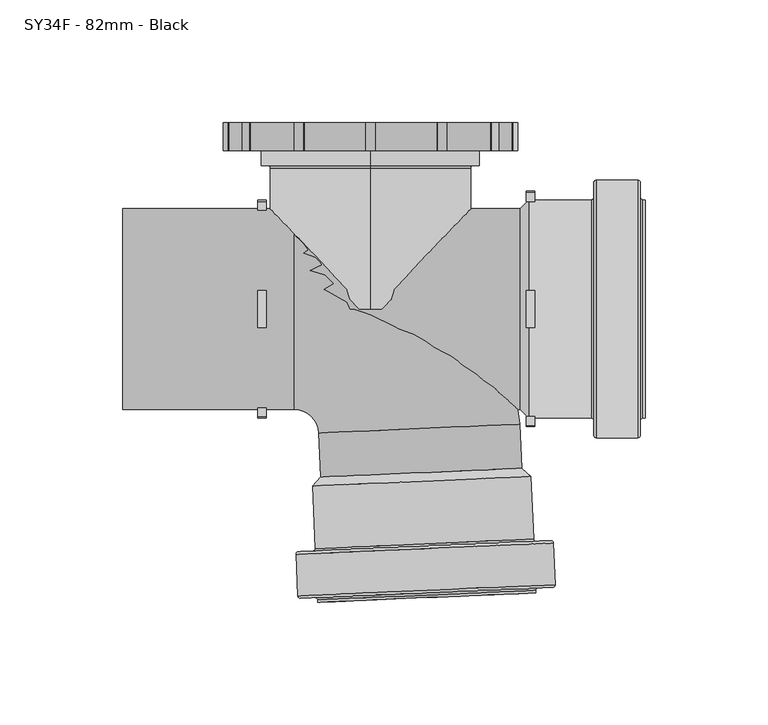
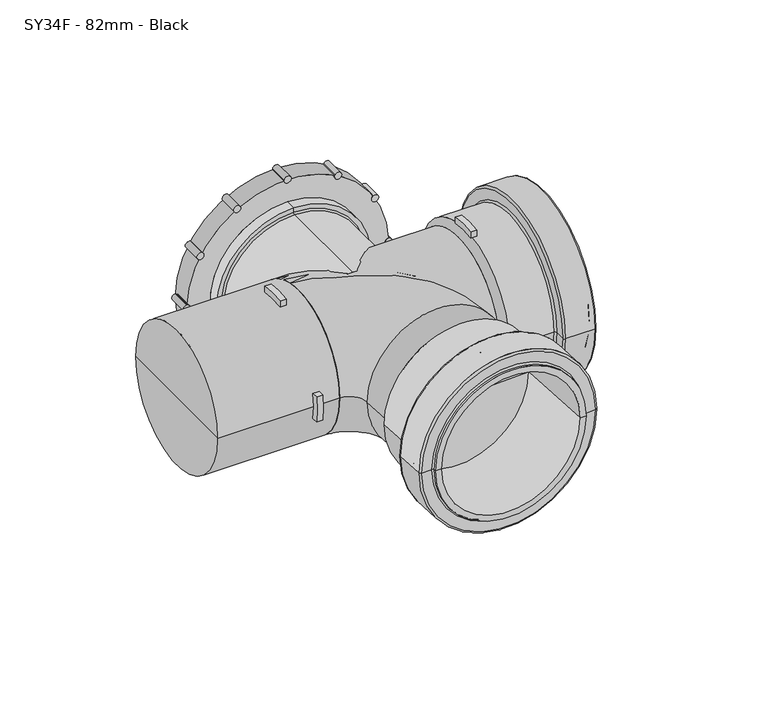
"""IFC4 building model written with IfcOpenShell, lengths in millimetres: pipe fitting geometry, MarleyPlumbingAndDrainage_PipeFitting_AccessBranch87-5_SY34F : SY34F - 82mm - Black."""

from ifc_helpers import new_model, si_unit, point, frame, frame_2d, origin, origin_2d, place, context, project, spatial, polyline, circle_curve, ellipse_curve, trimmed, segment, composite_curve, outline, extrude, source, transform, mapped, element, save
from ifc_brep_helpers import plane_surface, cylinder_surface, revolved_surface, advanced_brep


def sy34f_82mm_black_2398f142(model_context):
    return source(origin(), model_context, "Body", "SolidModel", [
        advanced_brep(
        [(49.596964, -115.7686758, 0.0), (-39.3183277, -119.6508013, 0.0), (-39.3608905, -118.6759527, 0.0), (49.5544012, -114.7938272, 0.0), (46.1002953, -115.9213437, 0.0), (-35.8216589, -119.4981334, 0.0), (44.0283744, -68.4665531, 0.0), (-37.8935798, -72.0433429, 0.0), (3.0673973, -70.254948, 0.0), (47.5250431, -68.3138853, 0.0), (-41.3902486, -72.1960107, 0.0), (-38.0462477, -68.5466741, 0.0), (43.8757065, -64.9698844, 0.0), (48.6387356, -93.8216365, 0.0), (-40.2765561, -97.7037619, 0.0), (49.6479836, -94.7464418, 0.0), (-41.2013615, -98.7130099, 0.0), (55.6367881, -94.484965, 0.0), (-47.190166, -98.9744868, 0.0), (56.7185996, -95.4762627, 0.0), (-48.1814636, -100.0562983, 0.0), (57.4586743, -112.4267603, 0.0), (-47.4413889, -117.006796, 0.0), (56.5072471, -113.4650609, 0.0), (-46.4030883, -117.9582232, 0.0), (50.5329731, -113.7259034, 0.0), (-40.4288143, -117.6973808, 0.0), (2.9147294, -66.7582792, 0.0)],
        [
            (0, 1, circle_curve(frame((5.1393182, -117.7097385, 0.0), z_axis=(-0.04361938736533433, 0.9990482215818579, 0.0), x_axis=(-0.9990482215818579, -0.04361938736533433, 0.0)), 44.5)),
            (1, 2),
            (2, 3, circle_curve(frame((5.0967554, -116.7348899, 0.0), z_axis=(0.04361938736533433, -0.9990482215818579, 0.0), x_axis=(-0.9990482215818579, -0.04361938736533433, 0.0)), 44.5)),
            (3, 0),
            (1, 0, circle_curve(frame((5.1393182, -117.7097385, 0.0), z_axis=(-0.04361938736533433, 0.9990482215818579, 0.0), x_axis=(-0.9990482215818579, -0.04361938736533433, 0.0)), 44.5)),
            (3, 2, circle_curve(frame((5.0967554, -116.7348899, 0.0), z_axis=(0.04361938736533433, -0.9990482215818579, 0.0), x_axis=(-0.9990482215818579, -0.04361938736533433, 0.0)), 44.5)),
            (4, 5, circle_curve(frame((5.1393182, -117.7097385, 0.0), z_axis=(-0.04361938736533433, 0.9990482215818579, 0.0), x_axis=(-0.9990482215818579, -0.04361938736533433, 0.0)), 41.0)),
            (5, 1),
            (0, 4),
            (5, 4, circle_curve(frame((5.1393182, -117.7097385, 0.0), z_axis=(-0.04361938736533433, 0.9990482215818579, 0.0), x_axis=(-0.9990482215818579, -0.04361938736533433, 0.0)), 41.0)),
            (6, 7, circle_curve(frame((3.0673973, -70.254948, 0.0), z_axis=(-0.04361938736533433, 0.9990482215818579, 0.0), x_axis=(-0.9990482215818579, -0.04361938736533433, 0.0)), 41.0)),
            (7, 5),
            (4, 6),
            (7, 6, circle_curve(frame((3.0673973, -70.254948, 0.0), z_axis=(-0.04361938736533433, 0.9990482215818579, 0.0), x_axis=(-0.9990482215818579, -0.04361938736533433, 0.0)), 41.0)),
            (8, 7),
            (6, 8),
            (9, 10, circle_curve(frame((3.0673973, -70.254948, 0.0), z_axis=(-0.04361938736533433, 0.9990482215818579, 0.0), x_axis=(-0.9990482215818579, -0.04361938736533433, 0.0)), 44.5)),
            (10, 11),
            (11, 12, circle_curve(frame((2.9147294, -66.7582792, 0.0), z_axis=(0.04361938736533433, -0.9990482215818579, 0.0), x_axis=(-0.9990482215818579, -0.04361938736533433, 0.0)), 41.0)),
            (12, 9),
            (10, 9, circle_curve(frame((3.0673973, -70.254948, 0.0), z_axis=(-0.04361938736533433, 0.9990482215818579, 0.0), x_axis=(-0.9990482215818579, -0.04361938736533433, 0.0)), 44.5)),
            (12, 11, circle_curve(frame((2.9147294, -66.7582792, 0.0), z_axis=(0.04361938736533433, -0.9990482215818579, 0.0), x_axis=(-0.9990482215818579, -0.04361938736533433, 0.0)), 41.0)),
            (13, 14, circle_curve(frame((4.1810897, -95.7626992, 0.0), z_axis=(-0.04361938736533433, 0.9990482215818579, 0.0), x_axis=(-0.9990482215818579, -0.04361938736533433, 0.0)), 44.5)),
            (14, 10),
            (9, 13),
            (14, 13, circle_curve(frame((4.1810897, -95.7626992, 0.0), z_axis=(-0.04361938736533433, 0.9990482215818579, 0.0), x_axis=(-0.9990482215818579, -0.04361938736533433, 0.0)), 44.5)),
            (15, 16, circle_curve(frame((4.223311, -96.7297259, 0.0), z_axis=(-0.04361938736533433, 0.9990482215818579, 0.0), x_axis=(-0.9990482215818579, -0.04361938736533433, 0.0)), 45.467948)),
            (16, 14, circle_curve(frame((-41.2435828, -97.7459832, 0.0), z_axis=(0.0, 0.0, 1.0), x_axis=(-0.04361938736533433, 0.9990482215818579, 0.0)), 0.967948)),
            (13, 15, circle_curve(frame((49.6057623, -93.7794152, 0.0), z_axis=(0.0, 0.0, 1.0), x_axis=(-0.04361938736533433, 0.9990482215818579, 0.0)), 0.967948)),
            (16, 15, circle_curve(frame((4.223311, -96.7297259, 0.0), z_axis=(-0.04361938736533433, 0.9990482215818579, 0.0), x_axis=(-0.9990482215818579, -0.04361938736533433, 0.0)), 45.467948)),
            (17, 18, circle_curve(frame((4.223311, -96.7297259, 0.0), z_axis=(-0.04361938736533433, 0.9990482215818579, 0.0), x_axis=(-0.9990482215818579, -0.04361938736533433, 0.0)), 51.4624579)),
            (18, 16),
            (15, 17),
            (18, 17, circle_curve(frame((4.223311, -96.7297259, 0.0), z_axis=(-0.04361938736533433, 0.9990482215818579, 0.0), x_axis=(-0.9990482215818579, -0.04361938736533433, 0.0)), 51.4624579)),
            (19, 20, circle_curve(frame((4.268568, -97.7662805, 0.0), z_axis=(-0.04361938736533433, 0.9990482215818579, 0.0), x_axis=(-0.9990482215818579, -0.04361938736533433, 0.0)), 52.5)),
            (20, 18, circle_curve(frame((-47.144909, -100.0110414, 0.0), z_axis=(0.0, 0.0, -1.0), x_axis=(-0.04361938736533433, 0.9990482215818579, 0.0)), 1.0375421)),
            (17, 19, circle_curve(frame((55.682045, -95.5215196, 0.0), z_axis=(0.0, 0.0, -1.0), x_axis=(-0.04361938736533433, 0.9990482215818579, 0.0)), 1.0375421)),
            (20, 19, circle_curve(frame((4.268568, -97.7662805, 0.0), z_axis=(-0.04361938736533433, 0.9990482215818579, 0.0), x_axis=(-0.9990482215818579, -0.04361938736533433, 0.0)), 52.5)),
            (21, 22, circle_curve(frame((5.0086427, -114.7167782, 0.0), z_axis=(-0.04361938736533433, 0.9990482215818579, 0.0), x_axis=(-0.9990482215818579, -0.04361938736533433, 0.0)), 52.5)),
            (22, 20),
            (19, 21),
            (22, 21, circle_curve(frame((5.0086427, -114.7167782, 0.0), z_axis=(-0.04361938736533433, 0.9990482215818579, 0.0), x_axis=(-0.9990482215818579, -0.04361938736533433, 0.0)), 52.5)),
            (23, 24, circle_curve(frame((5.0520794, -115.7116421, 0.0), z_axis=(-0.04361938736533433, 0.9990482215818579, 0.0), x_axis=(-0.9990482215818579, -0.04361938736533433, 0.0)), 51.5041883)),
            (24, 22, circle_curve(frame((-46.446525, -116.9633593, 0.0), z_axis=(0.0, 0.0, -1.0), x_axis=(-0.04361938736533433, 0.9990482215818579, 0.0)), 0.9958117)),
            (21, 23, circle_curve(frame((56.4638104, -112.470197, 0.0), z_axis=(0.0, 0.0, -1.0), x_axis=(-0.04361938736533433, 0.9990482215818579, 0.0)), 0.9958117)),
            (24, 23, circle_curve(frame((5.0520794, -115.7116421, 0.0), z_axis=(-0.04361938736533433, 0.9990482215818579, 0.0), x_axis=(-0.9990482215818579, -0.04361938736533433, 0.0)), 51.5041883)),
            (25, 26, circle_curve(frame((5.0520794, -115.7116421, 0.0), z_axis=(-0.04361938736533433, 0.9990482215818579, 0.0), x_axis=(-0.9990482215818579, -0.04361938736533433, 0.0)), 45.5242227)),
            (26, 24),
            (23, 25),
            (26, 25, circle_curve(frame((5.0520794, -115.7116421, 0.0), z_axis=(-0.04361938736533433, 0.9990482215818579, 0.0), x_axis=(-0.9990482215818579, -0.04361938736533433, 0.0)), 45.5242227)),
            (2, 26, circle_curve(frame((-40.3841383, -118.7206286, 0.0), z_axis=(0.0, 0.0, 1.0), x_axis=(-0.04361938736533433, 0.9990482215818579, 0.0)), 1.0242227)),
            (25, 3, circle_curve(frame((50.5776491, -114.7491512, 0.0), z_axis=(0.0, 0.0, 1.0), x_axis=(-0.04361938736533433, 0.9990482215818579, 0.0)), 1.0242227)),
            (11, 27),
            (27, 12),
        ],
        [
            cylinder_surface(frame((5.7930933, -132.6836501, 0.0), z_axis=(0.04361938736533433, -0.9990482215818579, 0.0), x_axis=(-0.9990482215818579, -0.04361938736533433, 0.0)), 44.5),
            plane_surface(frame((5.1393182, -117.7097385, 0.0), z_axis=(0.04361938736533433, -0.9990482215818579, 0.0), x_axis=(-0.9990482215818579, -0.04361938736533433, 0.0))),
            revolved_surface(polyline([(-35.821658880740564, -119.49813346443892, 0.0), (-37.89357978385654, -72.04334286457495, 0.0)]), (5.7930933, -132.6836501, 0.0), (0.04361938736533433, -0.9990482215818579, 0.0)),
            plane_surface(frame((3.0673973, -70.254948, 0.0), z_axis=(0.04361938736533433, -0.9990482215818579, 0.0), x_axis=(-0.9990482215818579, -0.04361938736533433, 0.0))),
            revolved_surface(polyline([(-38.0462477, -68.5466741, 0.0), (-41.3902486, -72.1960107, 0.0)]), (5.7930933, -132.6836501, 0.0), (0.04361938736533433, -0.9990482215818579, 0.0)),
            revolved_surface(trimmed(ellipse_curve(frame((-41.2435828, -97.7459832, 0.0), z_axis=(0.0, 0.0, -1.0), x_axis=(-0.04361938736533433, 0.9990482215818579, 0.0)), 0.967948, 0.967948), [point((-40.2765561, -97.7037619, 0.0))], [point((-41.2013615, -98.7130099, 0.0))], True, "CARTESIAN"), (5.7930933, -132.6836501, 0.0), (0.04361938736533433, -0.9990482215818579, 0.0)),
            plane_surface(frame((4.223311, -96.7297259, 0.0), z_axis=(-0.04361938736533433, 0.9990482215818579, 0.0), x_axis=(-0.9990482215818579, -0.04361938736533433, 0.0))),
            revolved_surface(trimmed(ellipse_curve(frame((-47.144909, -100.0110414, 0.0), z_axis=(0.0, 0.0, 1.0), x_axis=(-0.04361938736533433, 0.9990482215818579, 0.0)), 1.0375421, 1.0375421), [point((-47.190166, -98.9744868, 0.0))], [point((-48.1814636, -100.0562983, 0.0))], True, "CARTESIAN"), (5.7930933, -132.6836501, 0.0), (0.04361938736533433, -0.9990482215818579, 0.0)),
            cylinder_surface(frame((5.7930933, -132.6836501, 0.0), z_axis=(0.04361938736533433, -0.9990482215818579, 0.0), x_axis=(-0.9990482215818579, -0.04361938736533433, 0.0)), 52.5),
            revolved_surface(trimmed(ellipse_curve(frame((-46.446525, -116.9633593, 0.0), z_axis=(0.0, 0.0, 1.0), x_axis=(-0.04361938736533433, 0.9990482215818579, 0.0)), 0.9958117, 0.9958117), [point((-47.4413889, -117.006796, 0.0))], [point((-46.4030883, -117.9582232, 0.0))], True, "CARTESIAN"), (5.7930933, -132.6836501, 0.0), (0.04361938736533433, -0.9990482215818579, 0.0)),
            plane_surface(frame((5.0520794, -115.7116421, 0.0), z_axis=(0.04361938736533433, -0.9990482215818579, 0.0), x_axis=(-0.9990482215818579, -0.04361938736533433, 0.0))),
            revolved_surface(trimmed(ellipse_curve(frame((-40.3841383, -118.7206286, 0.0), z_axis=(0.0, 0.0, -1.0), x_axis=(-0.04361938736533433, 0.9990482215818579, 0.0)), 1.0242227, 1.0242227), [point((-40.4288143, -117.6973808, 0.0))], [point((-39.3608905, -118.6759527, 0.0))], True, "CARTESIAN"), (5.7930933, -132.6836501, 0.0), (0.04361938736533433, -0.9990482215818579, 0.0)),
            plane_surface(frame((2.9147294, -66.7582792, 0.0), z_axis=(-0.04361938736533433, 0.9990482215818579, 0.0), x_axis=(-0.9990482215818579, -0.04361938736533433, 0.0))),
        ],
        [
            (0, [[1, 2, 3, 4]]),
            (0, [[5, -4, 6, -2]]),
            (1, [[7, 8, -1, 9]]),
            (1, [[10, -9, -5, -8]]),
            (2, [[11, 12, -7, 13]]),
            (2, [[14, -13, -10, -12]]),
            (3, [[15, -11, 16]]),
            (3, [[-16, -14, -15]]),
            (4, [[17, 18, 19, 20]]),
            (4, [[21, -20, 22, -18]]),
            (0, [[23, 24, -17, 25]]),
            (0, [[26, -25, -21, -24]]),
            (5, [[27, 28, -23, 29]]),
            (5, [[30, -29, -26, -28]]),
            (6, [[31, 32, -27, 33]]),
            (6, [[34, -33, -30, -32]]),
            (7, [[35, 36, -31, 37]]),
            (7, [[38, -37, -34, -36]]),
            (8, [[39, 40, -35, 41]]),
            (8, [[42, -41, -38, -40]]),
            (9, [[43, 44, -39, 45]]),
            (9, [[46, -45, -42, -44]]),
            (10, [[47, 48, -43, 49]]),
            (10, [[50, -49, -46, -48]]),
            (11, [[-3, 51, -47, 52]]),
            (11, [[-6, -52, -50, -51]]),
            (12, [[-19, 53, 54]]),
            (12, [[-22, -54, -53]]),
        ],
    ),
        extrude(outline(composite_curve([segment(polyline([(-7.5, -47.4104419), (-7.5, -43.8634244)]), True, "CONTINUOUS"), segment(trimmed(circle_curve(origin_2d(), 44.5), [point((-7.5, -43.8634244))], [point((7.5, -43.8634244))], True, "CARTESIAN"), True, "CONTINUOUS"), segment(polyline([(7.5, -43.8634244), (7.5, -47.4104419)]), True, "CONTINUOUS"), segment(trimmed(circle_curve(origin_2d(), 48.0), [point((7.5, -47.4104419))], [point((-7.5, -47.4104419))], False, "CARTESIAN"), True, "CONTINUOUS")], self_intersect=False)), frame((45.7, 0.0, 0.0), z_axis=(1.0, 0.0, 0.0), x_axis=(0.0, 1.0, 0.0)), (0.0, 0.0, 1.0), 3.4781211),
        extrude(outline(composite_curve([segment(trimmed(circle_curve(origin_2d(), 44.5), [point((43.8634244, -7.5))], [point((43.8634244, 7.5))], True, "CARTESIAN"), True, "CONTINUOUS"), segment(polyline([(43.8634244, 7.5), (47.4104419, 7.5)]), True, "CONTINUOUS"), segment(trimmed(circle_curve(origin_2d(), 48.0), [point((47.4104419, 7.5))], [point((47.4104419, -7.5))], False, "CARTESIAN"), True, "CONTINUOUS"), segment(polyline([(47.4104419, -7.5), (43.8634244, -7.5)]), True, "CONTINUOUS")], self_intersect=False)), frame((45.7, 0.0, 0.0), z_axis=(1.0, 0.0, 0.0), x_axis=(0.0, 1.0, 0.0)), (0.0, 0.0, 1.0), 3.4781211),
        extrude(outline(composite_curve([segment(trimmed(circle_curve(origin_2d(), 44.5), [point((-43.8634244, 7.5))], [point((-43.8634244, -7.5))], True, "CARTESIAN"), True, "CONTINUOUS"), segment(polyline([(-43.8634244, -7.5), (-47.4104419, -7.5)]), True, "CONTINUOUS"), segment(trimmed(circle_curve(origin_2d(), 48.0), [point((-47.4104419, -7.5))], [point((-47.4104419, 7.5))], False, "CARTESIAN"), True, "CONTINUOUS"), segment(polyline([(-47.4104419, 7.5), (-43.8634244, 7.5)]), True, "CONTINUOUS")], self_intersect=False)), frame((45.7, 0.0, 0.0), z_axis=(1.0, 0.0, 0.0), x_axis=(0.0, 1.0, 0.0)), (0.0, 0.0, 1.0), 3.4781211),
        extrude(outline(composite_curve([segment(trimmed(circle_curve(origin_2d(), 44.5), [point((7.5, 43.8634244))], [point((-7.5, 43.8634244))], True, "CARTESIAN"), True, "CONTINUOUS"), segment(polyline([(-7.5, 43.8634244), (-7.5, 47.4104419)]), True, "CONTINUOUS"), segment(trimmed(circle_curve(origin_2d(), 48.0), [point((-7.5, 47.4104419))], [point((7.5, 47.4104419))], False, "CARTESIAN"), True, "CONTINUOUS"), segment(polyline([(7.5, 47.4104419), (7.5, 43.8634244)]), True, "CONTINUOUS")], self_intersect=False)), frame((45.7, 0.0, 0.0), z_axis=(1.0, 0.0, 0.0), x_axis=(0.0, 1.0, 0.0)), (0.0, 0.0, 1.0), 3.4781211),
        advanced_brep(
        [(94.1781211, -44.5, 0.0), (94.1781211, 44.5, 0.0), (93.2023438, 44.5, 0.0), (93.2023438, -44.5, 0.0), (94.1781211, -41.0, 0.0), (94.1781211, 41.0, 0.0), (46.6781211, -41.0, 0.0), (46.6781211, 41.0, 0.0), (46.6781211, 0.0, 0.0), (46.6781211, -44.5, 0.0), (46.6781211, 44.5, 0.0), (43.1781211, 41.0, 0.0), (43.1781211, -41.0, 0.0), (72.2101732, -44.5, 0.0), (72.2101732, 44.5, 0.0), (73.1781211, -45.467948, 0.0), (73.1781211, 45.467948, 0.0), (73.1781211, -51.4624579, 0.0), (73.1781211, 51.4624579, 0.0), (74.2156633, -52.5, 0.0), (74.2156633, 52.5, 0.0), (91.1823094, -52.5, 0.0), (91.1823094, 52.5, 0.0), (92.1781211, -51.5041883, 0.0), (92.1781211, 51.5041883, 0.0), (92.1781211, -45.5242227, 0.0), (92.1781211, 45.5242227, 0.0), (43.1781211, 0.0, 0.0)],
        [
            (0, 1, circle_curve(frame((94.1781211, 0.0, 0.0), z_axis=(-1.0, 0.0, 0.0), x_axis=(0.0, 1.0, 0.0)), 44.5)),
            (1, 2),
            (2, 3, circle_curve(frame((93.2023438, 0.0, 0.0), z_axis=(1.0, 0.0, 0.0), x_axis=(0.0, 1.0, 0.0)), 44.5)),
            (3, 0),
            (1, 0, circle_curve(frame((94.1781211, 0.0, 0.0), z_axis=(-1.0, 0.0, 0.0), x_axis=(0.0, 1.0, 0.0)), 44.5)),
            (3, 2, circle_curve(frame((93.2023438, 0.0, 0.0), z_axis=(1.0, 0.0, 0.0), x_axis=(0.0, 1.0, 0.0)), 44.5)),
            (4, 5, circle_curve(frame((94.1781211, 0.0, 0.0), z_axis=(-1.0, 0.0, 0.0), x_axis=(0.0, 1.0, 0.0)), 41.0)),
            (5, 1),
            (0, 4),
            (5, 4, circle_curve(frame((94.1781211, 0.0, 0.0), z_axis=(-1.0, 0.0, 0.0), x_axis=(0.0, 1.0, 0.0)), 41.0)),
            (6, 7, circle_curve(frame((46.6781211, 0.0, 0.0), z_axis=(-1.0, 0.0, 0.0), x_axis=(0.0, 1.0, 0.0)), 41.0)),
            (7, 5),
            (4, 6),
            (7, 6, circle_curve(frame((46.6781211, 0.0, 0.0), z_axis=(-1.0, 0.0, 0.0), x_axis=(0.0, 1.0, 0.0)), 41.0)),
            (8, 7),
            (6, 8),
            (9, 10, circle_curve(frame((46.6781211, 0.0, 0.0), z_axis=(-1.0, 0.0, 0.0), x_axis=(0.0, 1.0, 0.0)), 44.5)),
            (10, 11),
            (11, 12, circle_curve(frame((43.1781211, 0.0, 0.0), z_axis=(1.0, 0.0, 0.0), x_axis=(0.0, 1.0, 0.0)), 41.0)),
            (12, 9),
            (10, 9, circle_curve(frame((46.6781211, 0.0, 0.0), z_axis=(-1.0, 0.0, 0.0), x_axis=(0.0, 1.0, 0.0)), 44.5)),
            (12, 11, circle_curve(frame((43.1781211, 0.0, 0.0), z_axis=(1.0, 0.0, 0.0), x_axis=(0.0, 1.0, 0.0)), 41.0)),
            (13, 14, circle_curve(frame((72.2101732, 0.0, 0.0), z_axis=(-1.0, 0.0, 0.0), x_axis=(0.0, 1.0, 0.0)), 44.5)),
            (14, 10),
            (9, 13),
            (14, 13, circle_curve(frame((72.2101732, 0.0, 0.0), z_axis=(-1.0, 0.0, 0.0), x_axis=(0.0, 1.0, 0.0)), 44.5)),
            (15, 16, circle_curve(frame((73.1781211, 0.0, 0.0), z_axis=(-1.0, 0.0, 0.0), x_axis=(0.0, 1.0, 0.0)), 45.467948)),
            (16, 14, circle_curve(frame((72.2101732, 45.467948, 0.0), z_axis=(0.0, 0.0, -1.0), x_axis=(-1.0, 0.0, 0.0)), 0.967948)),
            (13, 15, circle_curve(frame((72.2101732, -45.467948, 0.0), z_axis=(0.0, 0.0, -1.0), x_axis=(-1.0, 0.0, 0.0)), 0.967948)),
            (16, 15, circle_curve(frame((73.1781211, 0.0, 0.0), z_axis=(-1.0, 0.0, 0.0), x_axis=(0.0, 1.0, 0.0)), 45.467948)),
            (17, 18, circle_curve(frame((73.1781211, 0.0, 0.0), z_axis=(-1.0, 0.0, 0.0), x_axis=(0.0, 1.0, 0.0)), 51.4624579)),
            (18, 16),
            (15, 17),
            (18, 17, circle_curve(frame((73.1781211, 0.0, 0.0), z_axis=(-1.0, 0.0, 0.0), x_axis=(0.0, 1.0, 0.0)), 51.4624579)),
            (19, 20, circle_curve(frame((74.2156633, 0.0, 0.0), z_axis=(-1.0, 0.0, 0.0), x_axis=(0.0, 1.0, 0.0)), 52.5)),
            (20, 18, circle_curve(frame((74.2156633, 51.4624579, 0.0), z_axis=(0.0, 0.0, 1.0), x_axis=(-1.0, 0.0, 0.0)), 1.0375421)),
            (17, 19, circle_curve(frame((74.2156633, -51.4624579, 0.0), z_axis=(0.0, 0.0, 1.0), x_axis=(-1.0, 0.0, 0.0)), 1.0375421)),
            (20, 19, circle_curve(frame((74.2156633, 0.0, 0.0), z_axis=(-1.0, 0.0, 0.0), x_axis=(0.0, 1.0, 0.0)), 52.5)),
            (21, 22, circle_curve(frame((91.1823094, 0.0, 0.0), z_axis=(-1.0, 0.0, 0.0), x_axis=(0.0, 1.0, 0.0)), 52.5)),
            (22, 20),
            (19, 21),
            (22, 21, circle_curve(frame((91.1823094, 0.0, 0.0), z_axis=(-1.0, 0.0, 0.0), x_axis=(0.0, 1.0, 0.0)), 52.5)),
            (23, 24, circle_curve(frame((92.1781211, 0.0, 0.0), z_axis=(-1.0, 0.0, 0.0), x_axis=(0.0, 1.0, 0.0)), 51.5041883)),
            (24, 22, circle_curve(frame((91.1823094, 51.5041883, 0.0), z_axis=(0.0, 0.0, 1.0), x_axis=(-1.0, 0.0, 0.0)), 0.9958117)),
            (21, 23, circle_curve(frame((91.1823094, -51.5041883, 0.0), z_axis=(0.0, 0.0, 1.0), x_axis=(-1.0, 0.0, 0.0)), 0.9958117)),
            (24, 23, circle_curve(frame((92.1781211, 0.0, 0.0), z_axis=(-1.0, 0.0, 0.0), x_axis=(0.0, 1.0, 0.0)), 51.5041883)),
            (25, 26, circle_curve(frame((92.1781211, 0.0, 0.0), z_axis=(-1.0, 0.0, 0.0), x_axis=(0.0, 1.0, 0.0)), 45.5242227)),
            (26, 24),
            (23, 25),
            (26, 25, circle_curve(frame((92.1781211, 0.0, 0.0), z_axis=(-1.0, 0.0, 0.0), x_axis=(0.0, 1.0, 0.0)), 45.5242227)),
            (2, 26, circle_curve(frame((93.2023438, 45.5242227, 0.0), z_axis=(0.0, 0.0, -1.0), x_axis=(-1.0, 0.0, 0.0)), 1.0242227)),
            (25, 3, circle_curve(frame((93.2023438, -45.5242227, 0.0), z_axis=(0.0, 0.0, -1.0), x_axis=(-1.0, 0.0, 0.0)), 1.0242227)),
            (11, 27),
            (27, 12),
        ],
        [
            cylinder_surface(frame((109.1662981, 0.0, 0.0), z_axis=(1.0, 0.0, 0.0), x_axis=(0.0, 1.0, 0.0)), 44.5),
            plane_surface(frame((94.1781211, 0.0, 0.0), z_axis=(1.0, 0.0, 0.0), x_axis=(0.0, 1.0, 0.0))),
            revolved_surface(polyline([(94.1781211, 41.0, 0.0), (46.6781211, 41.0, 0.0)]), (109.1662981, 0.0, 0.0), (1.0, 0.0, 0.0)),
            plane_surface(frame((46.6781211, 0.0, 0.0), z_axis=(1.0, 0.0, 0.0), x_axis=(0.0, 1.0, 0.0))),
            revolved_surface(polyline([(43.1781211, 41.0, 0.0), (46.6781211, 44.5, 0.0)]), (109.1662981, 0.0, 0.0), (1.0, 0.0, 0.0)),
            revolved_surface(trimmed(ellipse_curve(frame((72.2101732, 45.467948, 0.0), z_axis=(0.0, 0.0, 1.0), x_axis=(-1.0, 0.0, 0.0)), 0.967948, 0.967948), [point((72.2101732, 44.5, 0.0))], [point((73.1781211, 45.467948, 0.0))], True, "CARTESIAN"), (109.1662981, 0.0, 0.0), (1.0, 0.0, 0.0)),
            plane_surface(frame((73.1781211, 0.0, 0.0), z_axis=(-1.0, 0.0, 0.0), x_axis=(0.0, 1.0, 0.0))),
            revolved_surface(trimmed(ellipse_curve(frame((74.2156633, 51.4624579, 0.0), z_axis=(0.0, 0.0, -1.0), x_axis=(-1.0, 0.0, 0.0)), 1.0375421, 1.0375421), [point((73.1781211, 51.4624579, 0.0))], [point((74.2156633, 52.5, 0.0))], True, "CARTESIAN"), (109.1662981, 0.0, 0.0), (1.0, 0.0, 0.0)),
            cylinder_surface(frame((109.1662981, 0.0, 0.0), z_axis=(1.0, 0.0, 0.0), x_axis=(0.0, 1.0, 0.0)), 52.5),
            revolved_surface(trimmed(ellipse_curve(frame((91.1823094, 51.5041883, 0.0), z_axis=(0.0, 0.0, -1.0), x_axis=(-1.0, 0.0, 0.0)), 0.9958117, 0.9958117), [point((91.1823094, 52.5, 0.0))], [point((92.1781211, 51.5041883, 0.0))], True, "CARTESIAN"), (109.1662981, 0.0, 0.0), (1.0, 0.0, 0.0)),
            plane_surface(frame((92.1781211, 0.0, 0.0), z_axis=(1.0, 0.0, 0.0), x_axis=(0.0, 1.0, 0.0))),
            revolved_surface(trimmed(ellipse_curve(frame((93.2023438, 45.5242227, 0.0), z_axis=(0.0, 0.0, 1.0), x_axis=(-1.0, 0.0, 0.0)), 1.0242227, 1.0242227), [point((92.1781211, 45.5242227, 0.0))], [point((93.2023438, 44.5, 0.0))], True, "CARTESIAN"), (109.1662981, 0.0, 0.0), (1.0, 0.0, 0.0)),
            plane_surface(frame((43.1781211, 0.0, 0.0), z_axis=(-1.0, 0.0, 0.0), x_axis=(0.0, 1.0, 0.0))),
        ],
        [
            (0, [[1, 2, 3, 4]]),
            (0, [[5, -4, 6, -2]]),
            (1, [[7, 8, -1, 9]]),
            (1, [[10, -9, -5, -8]]),
            (2, [[11, 12, -7, 13]]),
            (2, [[14, -13, -10, -12]]),
            (3, [[15, -11, 16]]),
            (3, [[-16, -14, -15]]),
            (4, [[17, 18, 19, 20]]),
            (4, [[21, -20, 22, -18]]),
            (0, [[23, 24, -17, 25]]),
            (0, [[26, -25, -21, -24]]),
            (5, [[27, 28, -23, 29]]),
            (5, [[30, -29, -26, -28]]),
            (6, [[31, 32, -27, 33]]),
            (6, [[34, -33, -30, -32]]),
            (7, [[35, 36, -31, 37]]),
            (7, [[38, -37, -34, -36]]),
            (8, [[39, 40, -35, 41]]),
            (8, [[42, -41, -38, -40]]),
            (9, [[43, 44, -39, 45]]),
            (9, [[46, -45, -42, -44]]),
            (10, [[47, 48, -43, 49]]),
            (10, [[50, -49, -46, -48]]),
            (11, [[-3, 51, -47, 52]]),
            (11, [[-6, -52, -50, -51]]),
            (12, [[-19, 53, 54]]),
            (12, [[-22, -54, -53]]),
        ],
    ),
        extrude(outline(composite_curve([segment(trimmed(circle_curve(frame_2d((29.0, 32.4075946)), 2.0), [point((30.7320508, 31.4075946))], [point((27.2679492, 33.4075946))], False, "CARTESIAN"), True, "CONTINUOUS"), segment(trimmed(circle_curve(frame_2d((29.0, 32.4075946)), 2.0), [point((27.2679492, 33.4075946))], [point((30.7320508, 31.4075946))], False, "CARTESIAN"), True, "CONTINUOUS")], self_intersect=False)), frame((0.0, 64.5, 0.0), z_axis=(0.0, 1.0, 0.0), x_axis=(0.0, 0.0, 1.0)), (0.0, 0.0, 1.0), 11.5),
        extrude(outline(composite_curve([segment(trimmed(circle_curve(frame_2d((0.0, 40.1781211)), 2.0), [point((2.0, 40.1781211))], [point((-2.0, 40.1781211))], False, "CARTESIAN"), True, "CONTINUOUS"), segment(trimmed(circle_curve(frame_2d((0.0, 40.1781211)), 2.0), [point((-2.0, 40.1781211))], [point((2.0, 40.1781211))], False, "CARTESIAN"), True, "CONTINUOUS")], self_intersect=False)), frame((0.0, 64.5, 0.0), z_axis=(0.0, 1.0, 0.0), x_axis=(0.0, 0.0, 1.0)), (0.0, 0.0, 1.0), 11.5),
        extrude(outline(composite_curve([segment(trimmed(circle_curve(frame_2d((-29.0, 32.4075946)), 2.0), [point((-27.2679492, 33.4075946))], [point((-30.7320508, 31.4075946))], False, "CARTESIAN"), True, "CONTINUOUS"), segment(trimmed(circle_curve(frame_2d((-29.0, 32.4075946)), 2.0), [point((-30.7320508, 31.4075946))], [point((-27.2679492, 33.4075946))], False, "CARTESIAN"), True, "CONTINUOUS")], self_intersect=False)), frame((0.0, 64.5, 0.0), z_axis=(0.0, 1.0, 0.0), x_axis=(0.0, 0.0, 1.0)), (0.0, 0.0, 1.0), 11.5),
        extrude(outline(composite_curve([segment(trimmed(circle_curve(frame_2d((-50.2294734, 11.1781211)), 2.0), [point((-49.2294734, 12.910172))], [point((-51.2294734, 9.4460703))], False, "CARTESIAN"), True, "CONTINUOUS"), segment(trimmed(circle_curve(frame_2d((-50.2294734, 11.1781211)), 2.0), [point((-51.2294734, 9.4460703))], [point((-49.2294734, 12.910172))], False, "CARTESIAN"), True, "CONTINUOUS")], self_intersect=False)), frame((0.0, 64.5, 0.0), z_axis=(0.0, 1.0, 0.0), x_axis=(0.0, 0.0, 1.0)), (0.0, 0.0, 1.0), 11.5),
        extrude(outline(composite_curve([segment(trimmed(circle_curve(frame_2d((-58.0, -17.8218789)), 2.0), [point((-58.0, -15.8218789))], [point((-58.0, -19.8218789))], False, "CARTESIAN"), True, "CONTINUOUS"), segment(trimmed(circle_curve(frame_2d((-58.0, -17.8218789)), 2.0), [point((-58.0, -19.8218789))], [point((-58.0, -15.8218789))], False, "CARTESIAN"), True, "CONTINUOUS")], self_intersect=False)), frame((0.0, 64.5, 0.0), z_axis=(0.0, 1.0, 0.0), x_axis=(0.0, 0.0, 1.0)), (0.0, 0.0, 1.0), 11.5),
        extrude(outline(composite_curve([segment(trimmed(circle_curve(frame_2d((-50.2294734, -46.8218789)), 2.0), [point((-51.2294734, -45.089828))], [point((-49.2294734, -48.5539297))], False, "CARTESIAN"), True, "CONTINUOUS"), segment(trimmed(circle_curve(frame_2d((-50.2294734, -46.8218789)), 2.0), [point((-49.2294734, -48.5539297))], [point((-51.2294734, -45.089828))], False, "CARTESIAN"), True, "CONTINUOUS")], self_intersect=False)), frame((0.0, 64.5, 0.0), z_axis=(0.0, 1.0, 0.0), x_axis=(0.0, 0.0, 1.0)), (0.0, 0.0, 1.0), 11.5),
        extrude(outline(composite_curve([segment(trimmed(circle_curve(frame_2d((-29.0, -68.0513523)), 2.0), [point((-30.7320508, -67.0513523))], [point((-27.2679492, -69.0513523))], False, "CARTESIAN"), True, "CONTINUOUS"), segment(trimmed(circle_curve(frame_2d((-29.0, -68.0513523)), 2.0), [point((-27.2679492, -69.0513523))], [point((-30.7320508, -67.0513523))], False, "CARTESIAN"), True, "CONTINUOUS")], self_intersect=False)), frame((0.0, 64.5, 0.0), z_axis=(0.0, 1.0, 0.0), x_axis=(0.0, 0.0, 1.0)), (0.0, 0.0, 1.0), 11.5),
        extrude(outline(composite_curve([segment(trimmed(circle_curve(frame_2d((0.0, -75.8218789)), 2.0), [point((-2.0, -75.8218789))], [point((2.0, -75.8218789))], False, "CARTESIAN"), True, "CONTINUOUS"), segment(trimmed(circle_curve(frame_2d((0.0, -75.8218789)), 2.0), [point((2.0, -75.8218789))], [point((-2.0, -75.8218789))], False, "CARTESIAN"), True, "CONTINUOUS")], self_intersect=False)), frame((0.0, 64.5, 0.0), z_axis=(0.0, 1.0, 0.0), x_axis=(0.0, 0.0, 1.0)), (0.0, 0.0, 1.0), 11.5),
        extrude(outline(composite_curve([segment(trimmed(circle_curve(frame_2d((29.0, -68.0513523)), 2.0), [point((27.2679492, -69.0513523))], [point((30.7320508, -67.0513523))], False, "CARTESIAN"), True, "CONTINUOUS"), segment(trimmed(circle_curve(frame_2d((29.0, -68.0513523)), 2.0), [point((30.7320508, -67.0513523))], [point((27.2679492, -69.0513523))], False, "CARTESIAN"), True, "CONTINUOUS")], self_intersect=False)), frame((0.0, 64.5, 0.0), z_axis=(0.0, 1.0, 0.0), x_axis=(0.0, 0.0, 1.0)), (0.0, 0.0, 1.0), 11.5),
        extrude(outline(composite_curve([segment(trimmed(circle_curve(frame_2d((50.2294734, -46.8218789)), 2.0), [point((49.2294734, -48.5539297))], [point((51.2294734, -45.089828))], False, "CARTESIAN"), True, "CONTINUOUS"), segment(trimmed(circle_curve(frame_2d((50.2294734, -46.8218789)), 2.0), [point((51.2294734, -45.089828))], [point((49.2294734, -48.5539297))], False, "CARTESIAN"), True, "CONTINUOUS")], self_intersect=False)), frame((0.0, 64.5, 0.0), z_axis=(0.0, 1.0, 0.0), x_axis=(0.0, 0.0, 1.0)), (0.0, 0.0, 1.0), 11.5),
        extrude(outline(composite_curve([segment(trimmed(circle_curve(frame_2d((50.2294734, 11.1781211)), 2.0), [point((51.2294734, 9.4460703))], [point((49.2294734, 12.910172))], False, "CARTESIAN"), True, "CONTINUOUS"), segment(trimmed(circle_curve(frame_2d((50.2294734, 11.1781211)), 2.0), [point((49.2294734, 12.910172))], [point((51.2294734, 9.4460703))], False, "CARTESIAN"), True, "CONTINUOUS")], self_intersect=False)), frame((0.0, 64.5, 0.0), z_axis=(0.0, 1.0, 0.0), x_axis=(0.0, 0.0, 1.0)), (0.0, 0.0, 1.0), 11.5),
        extrude(outline(composite_curve([segment(trimmed(circle_curve(frame_2d((58.0, -17.8218789)), 2.0), [point((58.0, -19.8218789))], [point((58.0, -15.8218789))], False, "CARTESIAN"), True, "CONTINUOUS"), segment(trimmed(circle_curve(frame_2d((58.0, -17.8218789)), 2.0), [point((58.0, -15.8218789))], [point((58.0, -19.8218789))], False, "CARTESIAN"), True, "CONTINUOUS")], self_intersect=False)), frame((0.0, 64.5, 0.0), z_axis=(0.0, 1.0, 0.0), x_axis=(0.0, 0.0, 1.0)), (0.0, 0.0, 1.0), 11.5),
        advanced_brep(
        [(-75.8218789, 76.0, 0.0), (40.1781211, 76.0, 0.0), (-38.6781259, 76.0, -50.3514345), (3.0343682, 76.0, -50.3514345), (1.6949762, 76.0, -47.1178562), (-37.3387339, 76.0, -47.1178562), (32.5295557, 76.0, -20.8562471), (32.5295557, 76.0, 20.8562471), (29.2959773, 76.0, 19.5168551), (29.2959773, 76.0, -19.5168551), (-64.939735, 76.0, 19.5168551), (-68.1733134, 76.0, 20.8562471), (-68.1733134, 76.0, -20.8562471), (-64.939735, 76.0, -19.5168551), (-37.3387339, 76.0, 47.1178562), (1.6949762, 76.0, 47.1178562), (3.0343682, 76.0, 50.3514345), (-38.6781259, 76.0, 50.3514345), (-75.8218789, 64.5, 0.0), (40.1781211, 64.5, 0.0), (-17.8218789, 64.5, -44.5), (-17.8218789, 64.5, 44.5), (-37.3387339, 70.0, -47.1178562), (1.6949762, 70.0, -47.1178562), (3.0343682, 70.0, -50.3514345), (-38.6781259, 70.0, -50.3514345), (29.2959773, 70.0, -19.5168551), (29.2959773, 70.0, 19.5168551), (32.5295557, 70.0, 20.8562471), (32.5295557, 70.0, -20.8562471), (-64.939735, 70.0, -19.5168551), (-68.1733134, 70.0, -20.8562471), (-68.1733134, 70.0, 20.8562471), (-64.939735, 70.0, 19.5168551), (-38.6781259, 70.0, 50.3514345), (3.0343682, 70.0, 50.3514345), (1.6949762, 70.0, 47.1178562), (-37.3387339, 70.0, 47.1178562), (-17.8218789, 58.5, -44.5), (-17.8218789, 58.5, 44.5), (-17.8218789, 58.5, 42.0), (-17.8218789, 58.5, -42.0), (-17.8218789, 57.5, 41.0), (-17.8218789, 57.5, -41.0), (-17.8218789, 0.0, 41.0), (-17.8218789, 0.0, -41.0), (-17.8218789, 0.0, 0.0)],
        [
            (0, 1, circle_curve(frame((-17.8218789, 76.0, 0.0), z_axis=(0.0, 1.0, 0.0), x_axis=(1.0000000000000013, 0.0, 0.0)), 58.0)),
            (1, 0, circle_curve(frame((-17.8218789, 76.0, 0.0), z_axis=(0.0, 1.0, 0.0), x_axis=(1.0000000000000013, 0.0, 0.0)), 58.0)),
            (2, 3, circle_curve(frame((-17.8218789, 76.0, 0.0), z_axis=(0.0, -1.0, 0.0), x_axis=(1.0000000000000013, 0.0, 0.0)), 54.5)),
            (3, 4),
            (4, 5, circle_curve(frame((-17.8218789, 76.0, 0.0), z_axis=(0.0, 1.0, 0.0), x_axis=(1.0000000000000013, 0.0, 0.0)), 51.0)),
            (5, 2),
            (6, 7, circle_curve(frame((-17.8218789, 76.0, 0.0), z_axis=(0.0, -1.0, 0.0), x_axis=(1.0000000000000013, 0.0, 0.0)), 54.5)),
            (7, 8),
            (8, 9, circle_curve(frame((-17.8218789, 76.0, 0.0), z_axis=(0.0, 1.0, 0.0), x_axis=(1.0000000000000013, 0.0, 0.0)), 51.0)),
            (9, 6),
            (10, 11),
            (11, 12, circle_curve(frame((-17.8218789, 76.0, 0.0), z_axis=(0.0, -1.0, 0.0), x_axis=(1.0000000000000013, 0.0, 0.0)), 54.5)),
            (12, 13),
            (13, 10, circle_curve(frame((-17.8218789, 76.0, 0.0), z_axis=(0.0, 1.0, 0.0), x_axis=(1.0000000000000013, 0.0, 0.0)), 51.0)),
            (14, 15, circle_curve(frame((-17.8218789, 76.0, 0.0), z_axis=(0.0, 1.0, 0.0), x_axis=(1.0000000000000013, 0.0, 0.0)), 51.0)),
            (15, 16),
            (16, 17, circle_curve(frame((-17.8218789, 76.0, 0.0), z_axis=(0.0, -1.0, 0.0), x_axis=(1.0000000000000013, 0.0, 0.0)), 54.5)),
            (17, 14),
            (18, 19, circle_curve(frame((-17.8218789, 64.5, 0.0), z_axis=(0.0, -1.0, 0.0), x_axis=(1.0000000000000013, 0.0, 0.0)), 58.0)),
            (19, 18, circle_curve(frame((-17.8218789, 64.5, 0.0), z_axis=(0.0, -1.0, 0.0), x_axis=(1.0000000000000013, 0.0, 0.0)), 58.0)),
            (20, 21, circle_curve(frame((-17.8218789, 64.5, 0.0), z_axis=(0.0, 1.0, 0.0), x_axis=(0.0, 0.0, 1.0000000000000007)), 44.5)),
            (21, 20, circle_curve(frame((-17.8218789, 64.5, 0.0), z_axis=(0.0, 1.0, 0.0), x_axis=(0.0, 0.0, 1.0000000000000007)), 44.5)),
            (1, 19),
            (18, 0),
            (22, 23, circle_curve(frame((-17.8218789, 70.0, 0.0), z_axis=(0.0, -1.0, 0.0), x_axis=(1.0000000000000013, 0.0, 0.0)), 51.0)),
            (23, 24),
            (24, 25, circle_curve(frame((-17.8218789, 70.0, 0.0), z_axis=(0.0, 1.0, 0.0), x_axis=(1.0000000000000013, 0.0, 0.0)), 54.5)),
            (25, 22),
            (26, 27, circle_curve(frame((-17.8218789, 70.0, 0.0), z_axis=(0.0, -1.0, 0.0), x_axis=(1.0000000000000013, 0.0, 0.0)), 51.0)),
            (27, 28),
            (28, 29, circle_curve(frame((-17.8218789, 70.0, 0.0), z_axis=(0.0, 1.0, 0.0), x_axis=(1.0000000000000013, 0.0, 0.0)), 54.5)),
            (29, 26),
            (30, 31),
            (31, 32, circle_curve(frame((-17.8218789, 70.0, 0.0), z_axis=(0.0, 1.0, 0.0), x_axis=(1.0000000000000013, 0.0, 0.0)), 54.5)),
            (32, 33),
            (33, 30, circle_curve(frame((-17.8218789, 70.0, 0.0), z_axis=(0.0, -1.0, 0.0), x_axis=(1.0000000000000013, 0.0, 0.0)), 51.0)),
            (34, 35, circle_curve(frame((-17.8218789, 70.0, 0.0), z_axis=(0.0, 1.0, 0.0), x_axis=(1.0000000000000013, 0.0, 0.0)), 54.5)),
            (35, 36),
            (36, 37, circle_curve(frame((-17.8218789, 70.0, 0.0), z_axis=(0.0, -1.0, 0.0), x_axis=(1.0000000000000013, 0.0, 0.0)), 51.0)),
            (37, 34),
            (25, 2),
            (5, 22),
            (24, 3),
            (23, 4),
            (29, 6),
            (9, 26),
            (28, 7),
            (27, 8),
            (33, 10),
            (13, 30),
            (32, 11),
            (31, 12),
            (37, 14),
            (17, 34),
            (36, 15),
            (35, 16),
            (38, 20),
            (21, 39),
            (39, 38, circle_curve(frame((-17.8218789, 58.5, 0.0), z_axis=(0.0, 1.0, 0.0), x_axis=(0.0, 0.0, 1.0000000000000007)), 44.5)),
            (38, 39, circle_curve(frame((-17.8218789, 58.5, 0.0), z_axis=(0.0, 1.0, 0.0), x_axis=(0.0, 0.0, 1.0000000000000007)), 44.5)),
            (39, 40),
            (40, 41, circle_curve(frame((-17.8218789, 58.5, 0.0), z_axis=(0.0, 1.0, 0.0), x_axis=(0.0, 0.0, 1.0000000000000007)), 42.0)),
            (41, 38),
            (41, 40, circle_curve(frame((-17.8218789, 58.5, 0.0), z_axis=(0.0, 1.0, 0.0), x_axis=(0.0, 0.0, 1.0000000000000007)), 42.0)),
            (40, 42, circle_curve(frame((-17.8218789, 57.5, 42.0), z_axis=(-1.0000000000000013, 0.0, 0.0), x_axis=(0.0, 1.0000000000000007, 0.0)), 1.0)),
            (42, 43, circle_curve(frame((-17.8218789, 57.5, 0.0), z_axis=(0.0, 1.0, 0.0), x_axis=(0.0, 0.0, 1.0000000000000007)), 41.0)),
            (43, 41, circle_curve(frame((-17.8218789, 57.5, -42.0), z_axis=(-1.0000000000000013, 0.0, 0.0), x_axis=(0.0, 1.0000000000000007, 0.0)), 1.0)),
            (43, 42, circle_curve(frame((-17.8218789, 57.5, 0.0), z_axis=(0.0, 1.0, 0.0), x_axis=(0.0, 0.0, 1.0000000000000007)), 41.0)),
            (42, 44),
            (44, 45, circle_curve(frame((-17.8218789, 0.0, 0.0), z_axis=(0.0, 1.0, 0.0), x_axis=(0.0, 0.0, 1.0000000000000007)), 41.0)),
            (45, 43),
            (45, 44, circle_curve(frame((-17.8218789, 0.0, 0.0), z_axis=(0.0, 1.0, 0.0), x_axis=(0.0, 0.0, 1.0000000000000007)), 41.0)),
            (44, 46),
            (46, 45),
        ],
        [
            plane_surface(frame((40.1781211, 76.0, 0.0), z_axis=(0.0, 1.0, 0.0), x_axis=(0.0, 0.0, 1.0))),
            plane_surface(frame((40.1781211, 64.5, 0.0), z_axis=(0.0, -1.0, 0.0), x_axis=(0.0, 0.0, -1.0))),
            cylinder_surface(frame((-17.8218789, 64.5, 0.0), z_axis=(0.0, 1.0000000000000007, 0.0), x_axis=(1.0000000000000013, 0.0, 0.0)), 58.0),
            plane_surface(frame((-38.6781259, 70.0, -50.3514345), z_axis=(0.0, 1.0, 0.0), x_axis=(0.38268343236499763, 0.0, 0.9238795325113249))),
            plane_surface(frame((-37.3387339, 76.0, -47.1178562), z_axis=(0.9238795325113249, 0.0, -0.38268343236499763), x_axis=(0.0, -1.0, 0.0))),
            revolved_surface(polyline([(36.67812110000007, 76.00000000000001, 0.0), (36.67812110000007, 70.0, 0.0)]), (-17.8218789, 70.0, 0.0), (0.0, 1.0000000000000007, 0.0)),
            plane_surface(frame((3.0343682, 76.0, -50.3514345), z_axis=(-0.9238795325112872, 0.0, -0.38268343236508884), x_axis=(0.0, -1.0, 0.0))),
            cylinder_surface(frame((-17.8218789, 70.0, 0.0), z_axis=(0.0, -1.0000000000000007, 0.0), x_axis=(1.0000000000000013, 0.0, 0.0)), 51.0),
            plane_surface(frame((29.2959773, 76.0, -19.5168551), z_axis=(0.3826834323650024, 0.0, 0.9238795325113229), x_axis=(0.0, -1.0, 0.0))),
            revolved_surface(polyline([(36.67812110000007, 76.00000000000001, 0.0), (36.67812110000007, 70.0, 0.0)]), (-17.8218789, 64.5, 0.0), (0.0, 1.0000000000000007, 0.0)),
            plane_surface(frame((32.5295557, 76.0, 20.8562471), z_axis=(0.38268343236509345, 0.0, -0.9238795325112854), x_axis=(0.0, -1.0, 0.0))),
            cylinder_surface(frame((-17.8218789, 64.5, 0.0), z_axis=(0.0, -1.0000000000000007, 0.0), x_axis=(1.0000000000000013, 0.0, 0.0)), 51.0),
            plane_surface(frame((-64.939735, 76.0, 19.5168551), z_axis=(-0.38268343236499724, 0.0, -0.923879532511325), x_axis=(0.0, -1.0, 0.0))),
            plane_surface(frame((-68.1733134, 76.0, -20.8562471), z_axis=(-0.3826834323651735, 0.0, 0.9238795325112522), x_axis=(0.0, -1.0, 0.0))),
            plane_surface(frame((-38.6781259, 76.0, 50.3514345), z_axis=(0.923879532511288, 0.0, 0.38268343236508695), x_axis=(0.0, -1.0, 0.0))),
            plane_surface(frame((1.6949762, 76.0, 47.1178562), z_axis=(-0.9238795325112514, 0.0, 0.3826834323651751), x_axis=(0.0, -1.0, 0.0))),
            cylinder_surface(frame((-17.8218789, -1158.344146, 0.0), z_axis=(0.0, -1.0000000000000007, 0.0), x_axis=(0.0, 0.0, 1.0000000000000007)), 44.5),
            plane_surface(frame((-17.8218789, 58.5, 0.0), z_axis=(0.0, -1.0, 0.0), x_axis=(0.0, 0.0, 1.0))),
            revolved_surface(trimmed(ellipse_curve(frame((-17.8218789, 57.5, 42.0), z_axis=(-1.0000000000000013, 0.0, 0.0), x_axis=(0.0, 1.0000000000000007, 0.0)), 1.0, 1.0), [point((-17.8218789, 58.5, 42.0))], [point((-17.8218789, 57.5, 41.0))], True, "CARTESIAN"), (-17.8218789, -1158.344146, 0.0), (0.0, -1.0000000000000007, 0.0)),
            cylinder_surface(frame((-17.8218789, -1158.344146, 0.0), z_axis=(0.0, -1.0000000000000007, 0.0), x_axis=(0.0, 0.0, 1.0000000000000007)), 41.0),
            plane_surface(frame((-17.8218789, 0.0, 0.0), z_axis=(0.0, -1.0, 0.0), x_axis=(0.0, 0.0, 1.0))),
        ],
        [
            (0, [[1, 2], [3, 4, 5, 6], [7, 8, 9, 10], [11, 12, 13, 14], [15, 16, 17, 18]]),
            (1, [[19, 20], [21, 22]]),
            (2, [[23, -19, 24, -2]]),
            (2, [[-24, -20, -23, -1]]),
            (3, [[25, 26, 27, 28]]),
            (3, [[29, 30, 31, 32]]),
            (3, [[33, 34, 35, 36]]),
            (3, [[37, 38, 39, 40]]),
            (4, [[41, -6, 42, -28]]),
            (5, [[43, -3, -41, -27]]),
            (6, [[44, -4, -43, -26]]),
            (7, [[-42, -5, -44, -25]]),
            (8, [[45, -10, 46, -32]]),
            (9, [[47, -7, -45, -31]]),
            (10, [[48, -8, -47, -30]]),
            (11, [[-46, -9, -48, -29]]),
            (11, [[49, -14, 50, -36]]),
            (12, [[51, -11, -49, -35]]),
            (9, [[52, -12, -51, -34]]),
            (13, [[-50, -13, -52, -33]]),
            (14, [[53, -18, 54, -40]]),
            (11, [[55, -15, -53, -39]]),
            (15, [[56, -16, -55, -38]]),
            (9, [[-54, -17, -56, -37]]),
            (16, [[57, -22, 58, 59]]),
            (16, [[-21, -57, 60, -58]]),
            (17, [[61, 62, 63, -59]]),
            (17, [[-63, 64, -61, -60]]),
            (18, [[65, 66, 67, -62]]),
            (18, [[-67, 68, -65, -64]]),
            (19, [[69, 70, 71, -66]]),
            (19, [[-71, 72, -69, -68]]),
            (20, [[73, 74, -70]]),
            (20, [[-74, -73, -72]]),
        ],
    ),
        advanced_brep(
        [(-48.8218789, -41.0, 0.0), (-48.8218789, 41.0, 0.0), (43.0905575, -46.9870164, 0.0), (-38.8313966, -50.5638061, 0.0), (-38.0462477, -68.5466741, 0.0), (43.8757065, -64.9698844, 0.0)],
        [
            (0, 1, circle_curve(frame((-48.8218789, 0.0, 0.0), z_axis=(-1.0, 0.0, 0.0), x_axis=(0.0, 1.0, 0.0)), 41.0)),
            (1, 0, circle_curve(frame((-48.8218789, 0.0, 0.0), z_axis=(-1.0, 0.0, 0.0), x_axis=(0.0, 1.0, 0.0)), 41.0)),
            (2, 1, circle_curve(frame((-48.8218789, -51.0, 0.0), z_axis=(0.0, 0.0, 1.0), x_axis=(0.0, 1.0, 0.0)), 92.0)),
            (0, 3, circle_curve(frame((-48.8218789, -51.0, 0.0), z_axis=(0.0, 0.0, -1.0), x_axis=(0.0, 1.0, 0.0)), 10.0)),
            (3, 2, circle_curve(frame((2.1295804, -48.7754112, 0.0), z_axis=(-0.043619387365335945, 0.9990482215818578, 0.0), x_axis=(0.9990482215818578, 0.043619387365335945, 0.0)), 41.0)),
            (2, 3, circle_curve(frame((2.1295804, -48.7754112, 0.0), z_axis=(-0.043619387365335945, 0.9990482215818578, 0.0), x_axis=(0.9990482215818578, 0.043619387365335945, 0.0)), 41.0)),
            (4, 5, circle_curve(frame((2.9147294, -66.7582792, 0.0), z_axis=(0.04361938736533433, -0.9990482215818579, 0.0), x_axis=(0.9990482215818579, 0.04361938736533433, 0.0)), 41.0)),
            (5, 4, circle_curve(frame((2.9147294, -66.7582792, 0.0), z_axis=(0.04361938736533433, -0.9990482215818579, 0.0), x_axis=(0.9990482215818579, 0.04361938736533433, 0.0)), 41.0)),
            (3, 4),
            (5, 2),
        ],
        [
            plane_surface(frame((-48.8218789, 0.0, 0.0), z_axis=(-1.0, 0.0, 0.0), x_axis=(0.0, 0.0, 1.0))),
            revolved_surface(trimmed(ellipse_curve(frame((-48.8218789, 0.0, 0.0), z_axis=(-1.0, 0.0, 0.0), x_axis=(0.0, 1.0, 0.0)), 41.0, 41.0), [point((-48.8218789, -41.0, 0.0))], [point((-48.8218789, 41.0, 0.0))], True, "CARTESIAN"), (-48.8218789, -51.0, 0.0), (0.0, 0.0, -1.0)),
            revolved_surface(trimmed(ellipse_curve(frame((-48.8218789, 0.0, 0.0), z_axis=(-1.0, 0.0, 0.0), x_axis=(0.0, 1.0, 0.0)), 41.0, 41.0), [point((-48.8218789, 41.0, 0.0))], [point((-48.8218789, -41.0, 0.0))], True, "CARTESIAN"), (-48.8218789, -51.0, 0.0), (0.0, 0.0, -1.0)),
            plane_surface(frame((2.9147294, -66.7582792, 0.0), z_axis=(0.04361938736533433, -0.9990482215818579, 0.0), x_axis=(0.0, 0.0, 1.0))),
            cylinder_surface(frame((2.1295804, -48.7754112, 0.0), z_axis=(-0.04361938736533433, 0.9990482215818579, 0.0), x_axis=(0.9990482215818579, 0.04361938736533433, 0.0)), 41.0),
        ],
        [
            (0, [[1, 2]]),
            (1, [[3, -1, 4, 5]]),
            (2, [[-4, -2, -3, 6]]),
            (3, [[7, 8]]),
            (4, [[-5, 9, -8, 10]]),
            (4, [[-6, -10, -7, -9]]),
        ],
    ),
        extrude(outline(composite_curve([segment(polyline([(-40.3081878, -7.5), (-43.8634244, -7.5)]), True, "CONTINUOUS"), segment(trimmed(circle_curve(origin_2d(), 44.5), [point((-43.8634244, -7.5))], [point((-43.8634244, 7.5))], False, "CARTESIAN"), True, "CONTINUOUS"), segment(polyline([(-43.8634244, 7.5), (-40.3081878, 7.5)]), True, "CONTINUOUS"), segment(trimmed(circle_curve(origin_2d(), 41.0), [point((-40.3081878, 7.5))], [point((-40.3081878, -7.5))], True, "CARTESIAN"), True, "CONTINUOUS")], self_intersect=False)), frame((-63.8218789, 0.0, 0.0), z_axis=(1.0, 0.0, 0.0), x_axis=(0.0, 1.0, 0.0)), (0.0, 0.0, 1.0), 3.5),
        extrude(outline(composite_curve([segment(trimmed(circle_curve(origin_2d(), 41.0), [point((-7.5, -40.3081878))], [point((7.5, -40.3081878))], True, "CARTESIAN"), True, "CONTINUOUS"), segment(polyline([(7.5, -40.3081878), (7.5, -43.8634244)]), True, "CONTINUOUS"), segment(trimmed(circle_curve(origin_2d(), 44.5), [point((7.5, -43.8634244))], [point((-7.5, -43.8634244))], False, "CARTESIAN"), True, "CONTINUOUS"), segment(polyline([(-7.5, -43.8634244), (-7.5, -40.3081878)]), True, "CONTINUOUS")], self_intersect=False)), frame((-63.8218789, 0.0, 0.0), z_axis=(1.0, 0.0, 0.0), x_axis=(0.0, 1.0, 0.0)), (0.0, 0.0, 1.0), 3.5),
        extrude(outline(composite_curve([segment(trimmed(circle_curve(origin_2d(), 41.0), [point((7.5, 40.3081878))], [point((-7.5, 40.3081878))], True, "CARTESIAN"), True, "CONTINUOUS"), segment(polyline([(-7.5, 40.3081878), (-7.5, 43.8634244)]), True, "CONTINUOUS"), segment(trimmed(circle_curve(origin_2d(), 44.5), [point((-7.5, 43.8634244))], [point((7.5, 43.8634244))], False, "CARTESIAN"), True, "CONTINUOUS"), segment(polyline([(7.5, 43.8634244), (7.5, 40.3081878)]), True, "CONTINUOUS")], self_intersect=False)), frame((-63.8218789, 0.0, 0.0), z_axis=(1.0, 0.0, 0.0), x_axis=(0.0, 1.0, 0.0)), (0.0, 0.0, 1.0), 3.5),
        extrude(outline(composite_curve([segment(polyline([(40.3081878, 7.5), (43.8634244, 7.5)]), True, "CONTINUOUS"), segment(trimmed(circle_curve(origin_2d(), 44.5), [point((43.8634244, 7.5))], [point((43.8634244, -7.5))], False, "CARTESIAN"), True, "CONTINUOUS"), segment(polyline([(43.8634244, -7.5), (40.3081878, -7.5)]), True, "CONTINUOUS"), segment(trimmed(circle_curve(origin_2d(), 41.0), [point((40.3081878, -7.5))], [point((40.3081878, 7.5))], True, "CARTESIAN"), True, "CONTINUOUS")], self_intersect=False)), frame((-63.8218789, 0.0, 0.0), z_axis=(1.0, 0.0, 0.0), x_axis=(0.0, 1.0, 0.0)), (0.0, 0.0, 1.0), 3.5),
        advanced_brep(
        [(-118.8218789, -41.0, 0.0), (-118.8218789, 41.0, 0.0), (43.1781211, 41.0, 0.0), (43.1781211, -41.0, 0.0), (-118.8218789, 0.0, 0.0), (43.1781211, 0.0, 0.0)],
        [
            (0, 1, circle_curve(frame((-118.8218789, 0.0, 0.0), z_axis=(1.0, 0.0, 0.0), x_axis=(0.0, 1.0, 0.0)), 41.0)),
            (1, 2),
            (2, 3, circle_curve(frame((43.1781211, 0.0, 0.0), z_axis=(-1.0, 0.0, 0.0), x_axis=(0.0, 1.0, 0.0)), 41.0)),
            (3, 0),
            (1, 0, circle_curve(frame((-118.8218789, 0.0, 0.0), z_axis=(1.0, 0.0, 0.0), x_axis=(0.0, 1.0, 0.0)), 41.0)),
            (3, 2, circle_curve(frame((43.1781211, 0.0, 0.0), z_axis=(-1.0, 0.0, 0.0), x_axis=(0.0, 1.0, 0.0)), 41.0)),
            (4, 1),
            (0, 4),
            (2, 5),
            (5, 3),
        ],
        [
            cylinder_surface(frame((-163.8218789, 0.0, 0.0), z_axis=(-1.0, 0.0, 0.0), x_axis=(0.0, 1.0, 0.0)), 41.0),
            plane_surface(frame((-118.8218789, 0.0, 0.0), z_axis=(-1.0, 0.0, 0.0), x_axis=(0.0, 1.0, 0.0))),
            plane_surface(frame((43.1781211, 0.0, 0.0), z_axis=(1.0, 0.0, 0.0), x_axis=(0.0, 1.0, 0.0))),
        ],
        [
            (0, [[1, 2, 3, 4]]),
            (0, [[5, -4, 6, -2]]),
            (1, [[7, -1, 8]]),
            (1, [[-8, -5, -7]]),
            (2, [[-3, 9, 10]]),
            (2, [[-6, -10, -9]]),
        ],
    ),
    ])


if __name__ == "__main__":
    model = new_model("IFC4")
    model_context = context("Model", 3, world=origin())
    ifc_project = project(units=[si_unit("LENGTHUNIT", "METRE", prefix="MILLI")], contexts=[model_context])
    site = spatial("IfcSite", under=ifc_project)
    building = spatial("IfcBuilding", under=site)
    placement = place(None, origin())
    sy34f_82mm_black_shape = sy34f_82mm_black_2398f142(model_context)
    element("IfcPipeFitting", 1, ObjectType="MarleyPlumbingAndDrainage_PipeFitting_AccessBranch87-5_SY34F : SY34F - 82mm - Black", at=placement, inside=building, context=model_context, shape_type="MappedRepresentation", body=[
        mapped(sy34f_82mm_black_shape, transform((0.0, 0.0, 0.0), x_axis=(1.0, 0.0, 0.0), y_axis=(0.0, 1.0, 0.0), z_axis=(0.0, 0.0, 1.0))),
    ])
    save(model, "model.ifc")
